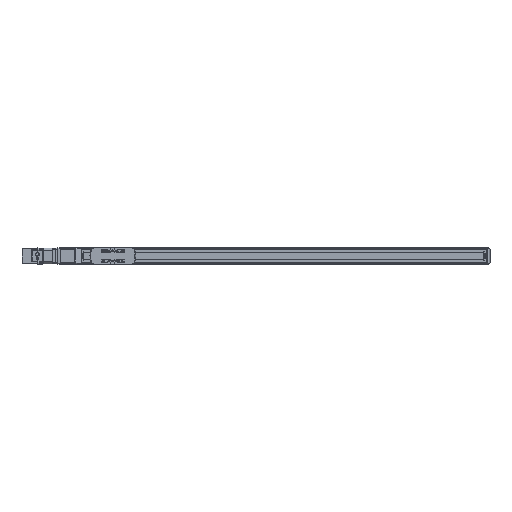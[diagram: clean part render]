
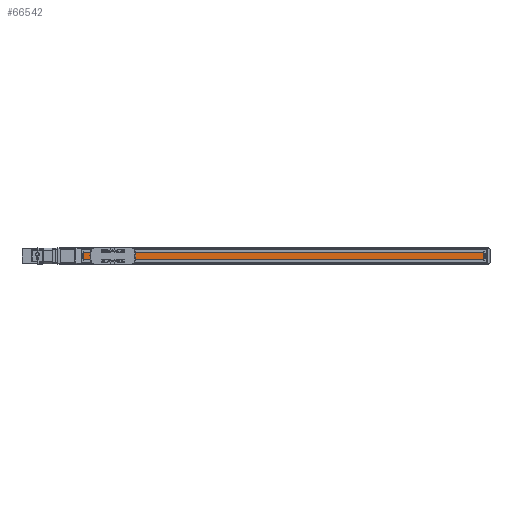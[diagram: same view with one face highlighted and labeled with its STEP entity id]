
A CAD part, top view. The second image highlights one B-rep face of the part: STEP entity #66542.
In plain terms, the highlighted planar face has unit normal (0, 0, 1) as drawn and (0, 1, 0) by its records, which use the part's own axes.
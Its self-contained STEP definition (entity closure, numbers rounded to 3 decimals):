
#66250 = PLANE('',#66251);
#66251 = AXIS2_PLACEMENT_3D('',#66252,#66253,#66254);
#66252 = CARTESIAN_POINT('',(-16.5,13.8,-10.));
#66253 = DIRECTION('',(1.,0.,0.));
#66254 = DIRECTION('',(0.,0.,-1.));
#66306 = PLANE('',#66307);
#66307 = AXIS2_PLACEMENT_3D('',#66308,#66309,#66310);
#66308 = CARTESIAN_POINT('',(-1069.5,13.8,10.));
#66309 = DIRECTION('',(-1.,0.,0.));
#66310 = DIRECTION('',(0.,0.,1.));
#66542 = ADVANCED_FACE('',(#66543),#66557,.T.);
#66543 = FACE_BOUND('',#66544,.T.);
#66544 = EDGE_LOOP('',(#66545,#66580,#66603,#66631));
#66545 = ORIENTED_EDGE('',*,*,#66546,.T.);
#66546 = EDGE_CURVE('',#66547,#66549,#66551,.T.);
#66547 = VERTEX_POINT('',#66548);
#66548 = CARTESIAN_POINT('',(-1069.5,12.3,9.2));
#66549 = VERTEX_POINT('',#66550);
#66550 = CARTESIAN_POINT('',(-16.5,12.3,9.2));
#66551 = SURFACE_CURVE('',#66552,(#66556,#66568),.PCURVE_S1.);
#66552 = LINE('',#66553,#66554);
#66553 = CARTESIAN_POINT('',(-1076.5,12.3,9.2));
#66554 = VECTOR('',#66555,1.);
#66555 = DIRECTION('',(1.,0.,0.));
#66556 = PCURVE('',#66557,#66562);
#66557 = PLANE('',#66558);
#66558 = AXIS2_PLACEMENT_3D('',#66559,#66560,#66561);
#66559 = CARTESIAN_POINT('',(-1076.5,12.3,-18.034));
#66560 = DIRECTION('',(0.,1.,0.));
#66561 = DIRECTION('',(0.,-0.,1.));
#66562 = DEFINITIONAL_REPRESENTATION('',(#66563),#66567);
#66563 = LINE('',#66564,#66565);
#66564 = CARTESIAN_POINT('',(27.234,0.));
#66565 = VECTOR('',#66566,1.);
#66566 = DIRECTION('',(0.,1.));
#66567 = ( GEOMETRIC_REPRESENTATION_CONTEXT(2) 
PARAMETRIC_REPRESENTATION_CONTEXT() REPRESENTATION_CONTEXT('2D SPACE',''
  ) );
#66568 = PCURVE('',#66569,#66574);
#66569 = PLANE('',#66570);
#66570 = AXIS2_PLACEMENT_3D('',#66571,#66572,#66573);
#66571 = CARTESIAN_POINT('',(-1076.5,11.1,9.2));
#66572 = DIRECTION('',(0.,0.,-1.));
#66573 = DIRECTION('',(0.,1.,0.));
#66574 = DEFINITIONAL_REPRESENTATION('',(#66575),#66579);
#66575 = LINE('',#66576,#66577);
#66576 = CARTESIAN_POINT('',(1.2,0.));
#66577 = VECTOR('',#66578,1.);
#66578 = DIRECTION('',(0.,1.));
#66579 = ( GEOMETRIC_REPRESENTATION_CONTEXT(2) 
PARAMETRIC_REPRESENTATION_CONTEXT() REPRESENTATION_CONTEXT('2D SPACE',''
  ) );
#66580 = ORIENTED_EDGE('',*,*,#66581,.T.);
#66581 = EDGE_CURVE('',#66549,#66582,#66584,.T.);
#66582 = VERTEX_POINT('',#66583);
#66583 = CARTESIAN_POINT('',(-16.5,12.3,-9.2));
#66584 = SURFACE_CURVE('',#66585,(#66589,#66596),.PCURVE_S1.);
#66585 = LINE('',#66586,#66587);
#66586 = CARTESIAN_POINT('',(-16.5,12.3,-18.034));
#66587 = VECTOR('',#66588,1.);
#66588 = DIRECTION('',(0.,0.,-1.));
#66589 = PCURVE('',#66557,#66590);
#66590 = DEFINITIONAL_REPRESENTATION('',(#66591),#66595);
#66591 = LINE('',#66592,#66593);
#66592 = CARTESIAN_POINT('',(0.,1060.));
#66593 = VECTOR('',#66594,1.);
#66594 = DIRECTION('',(-1.,0.));
#66595 = ( GEOMETRIC_REPRESENTATION_CONTEXT(2) 
PARAMETRIC_REPRESENTATION_CONTEXT() REPRESENTATION_CONTEXT('2D SPACE',''
  ) );
#66596 = PCURVE('',#66250,#66597);
#66597 = DEFINITIONAL_REPRESENTATION('',(#66598),#66602);
#66598 = LINE('',#66599,#66600);
#66599 = CARTESIAN_POINT('',(8.034,-1.5));
#66600 = VECTOR('',#66601,1.);
#66601 = DIRECTION('',(1.,0.));
#66602 = ( GEOMETRIC_REPRESENTATION_CONTEXT(2) 
PARAMETRIC_REPRESENTATION_CONTEXT() REPRESENTATION_CONTEXT('2D SPACE',''
  ) );
#66603 = ORIENTED_EDGE('',*,*,#66604,.F.);
#66604 = EDGE_CURVE('',#66605,#66582,#66607,.T.);
#66605 = VERTEX_POINT('',#66606);
#66606 = CARTESIAN_POINT('',(-1069.5,12.3,-9.2));
#66607 = SURFACE_CURVE('',#66608,(#66612,#66619),.PCURVE_S1.);
#66608 = LINE('',#66609,#66610);
#66609 = CARTESIAN_POINT('',(-1076.5,12.3,-9.2));
#66610 = VECTOR('',#66611,1.);
#66611 = DIRECTION('',(1.,0.,0.));
#66612 = PCURVE('',#66557,#66613);
#66613 = DEFINITIONAL_REPRESENTATION('',(#66614),#66618);
#66614 = LINE('',#66615,#66616);
#66615 = CARTESIAN_POINT('',(8.834,0.));
#66616 = VECTOR('',#66617,1.);
#66617 = DIRECTION('',(0.,1.));
#66618 = ( GEOMETRIC_REPRESENTATION_CONTEXT(2) 
PARAMETRIC_REPRESENTATION_CONTEXT() REPRESENTATION_CONTEXT('2D SPACE',''
  ) );
#66619 = PCURVE('',#66620,#66625);
#66620 = PLANE('',#66621);
#66621 = AXIS2_PLACEMENT_3D('',#66622,#66623,#66624);
#66622 = CARTESIAN_POINT('',(-1076.5,12.3,-9.2));
#66623 = DIRECTION('',(0.,0.,1.));
#66624 = DIRECTION('',(0.,-1.,0.));
#66625 = DEFINITIONAL_REPRESENTATION('',(#66626),#66630);
#66626 = LINE('',#66627,#66628);
#66627 = CARTESIAN_POINT('',(0.,0.));
#66628 = VECTOR('',#66629,1.);
#66629 = DIRECTION('',(0.,1.));
#66630 = ( GEOMETRIC_REPRESENTATION_CONTEXT(2) 
PARAMETRIC_REPRESENTATION_CONTEXT() REPRESENTATION_CONTEXT('2D SPACE',''
  ) );
#66631 = ORIENTED_EDGE('',*,*,#66632,.T.);
#66632 = EDGE_CURVE('',#66605,#66547,#66633,.T.);
#66633 = SURFACE_CURVE('',#66634,(#66638,#66645),.PCURVE_S1.);
#66634 = LINE('',#66635,#66636);
#66635 = CARTESIAN_POINT('',(-1069.5,12.3,-18.034));
#66636 = VECTOR('',#66637,1.);
#66637 = DIRECTION('',(0.,0.,1.));
#66638 = PCURVE('',#66557,#66639);
#66639 = DEFINITIONAL_REPRESENTATION('',(#66640),#66644);
#66640 = LINE('',#66641,#66642);
#66641 = CARTESIAN_POINT('',(0.,7.));
#66642 = VECTOR('',#66643,1.);
#66643 = DIRECTION('',(1.,0.));
#66644 = ( GEOMETRIC_REPRESENTATION_CONTEXT(2) 
PARAMETRIC_REPRESENTATION_CONTEXT() REPRESENTATION_CONTEXT('2D SPACE',''
  ) );
#66645 = PCURVE('',#66306,#66646);
#66646 = DEFINITIONAL_REPRESENTATION('',(#66647),#66651);
#66647 = LINE('',#66648,#66649);
#66648 = CARTESIAN_POINT('',(-28.034,-1.5));
#66649 = VECTOR('',#66650,1.);
#66650 = DIRECTION('',(1.,0.));
#66651 = ( GEOMETRIC_REPRESENTATION_CONTEXT(2) 
PARAMETRIC_REPRESENTATION_CONTEXT() REPRESENTATION_CONTEXT('2D SPACE',''
  ) );
